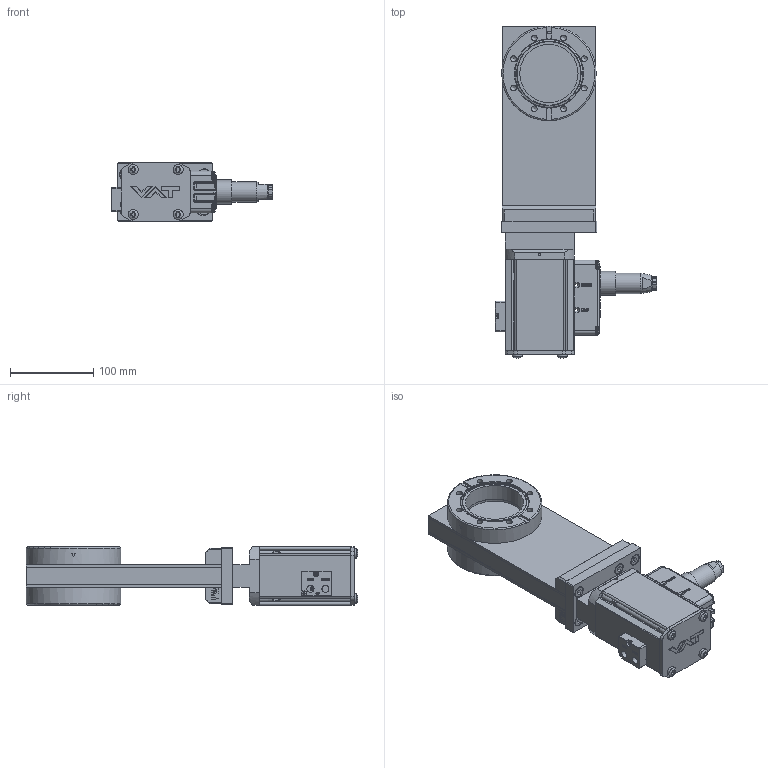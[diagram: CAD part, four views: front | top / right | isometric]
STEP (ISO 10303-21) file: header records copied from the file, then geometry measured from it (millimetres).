
FILE_DESCRIPTION(/* description */ (''),/* implementation_level */ '2;1');
FILE_NAME(/* name */ '1329487978_203.stp',/* time_stamp */ '2021-11-16T08:37:50+01:00',/* author */ (''),/* organization */ (''),/* preprocessor_version */ 'ST-DEVELOPER v16.7',/* originating_system */ 'SIEMENS PLM Software NX 1915',/* authorisation */ '');
FILE_SCHEMA (('AP203_CONFIGURATION_CONTROLLED_3D_DESIGN_OF_MECHANICAL_PARTS_AND_ASSEMBLIES_MIM_LF { 1 0 10303 403 2 1 2}'));
Products named in the file (33): 441451_29691ID; 21436-01.1_29707ID; 21437-01.1_29706ID; 21438-01.1; 441451_29703ID; 21437-01.1_29702ID; 21436-01.1_29693ID; 25832.1_29695ID; 25832.1; n-6099-454.1; 70973-01.1; 70988-01.1; n-8504-002; n-6024-548.1; 70987-01.1; n-6024-526; N-7100-014_2.1; 94828-01.1; N-7100-012_3.1; N-6024-571.1; 85948-01.1; 94221-01.1; 73002-01.1; 919608; 348352.1; 501138; 218198.1; 22974-r1.2_MODEL; 25833.2_MODEL; 790526; 94827-r1.1; 94234-r1.2; 1091813
Assembly tree (49 placements, depth 4):
  1091813
    218198.1  x6
    94234-r1.2
      73002-01.1  x4
      94221-01.1
      85948-01.1
      N-6024-571.1  x4
    94827-r1.1
      N-7100-012_3.1
      94828-01.1
      N-7100-014_2.1
      n-6024-526  x2
    790526
      70987-01.1
      n-6024-548.1  x4
      n-8504-002
      70988-01.1  x2
      70973-01.1
    25833.2_MODEL
      n-6099-454.1  x2
      25832.1
      25832.1_29695ID
      22974-r1.2_MODEL
        21436-01.1_29693ID
        21437-01.1_29702ID
        441451_29703ID
        21438-01.1
        21437-01.1_29706ID
        21436-01.1_29707ID
        441451_29691ID
    501138
    348352.1
    919608
Bounding box: 193.75 x 399.07 x 70 mm (x, y, z)
Volume: 1165336.3 mm3; surface area: 427277 mm2
Topology: 117 solids, 117 shells, 2586 faces, 6781 edges, 4689 vertices
Faces by surface type: plane 1790, cylinder 495, torus 111, cone 97, extrusion 65, bspline 18, sphere 10
Full cylindrical faces by diameter (mm): 0.7 x1, 1.66 x7, 2 x30, 2.125 x1, 2.5 x16, 2.65 x1, 2.8 x2, 3 x5, 3.3 x6, 4 x10, 4.2 x3, 4.35 x4, 4.4 x4, 4.45 x4, 4.5 x2, 4.625 x4, 4.75 x8, 5 x7, 5.2 x4, 5.9 x1, 6 x15, 6.6 x4, 6.66 x6, 6.7 x6, 6.8 x12, 6.909 x16, 7 x8, 7.05 x1, 7.5 x4, 7.982 x4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
Entity records: 79848 total; most frequent: CARTESIAN_POINT 21927, ORIENTED_EDGE 10988, DIRECTION 10119, EDGE_CURVE 5494, VERTEX_POINT 4041, VECTOR 3481, LINE 3416, AXIS2_PLACEMENT_3D 3319
